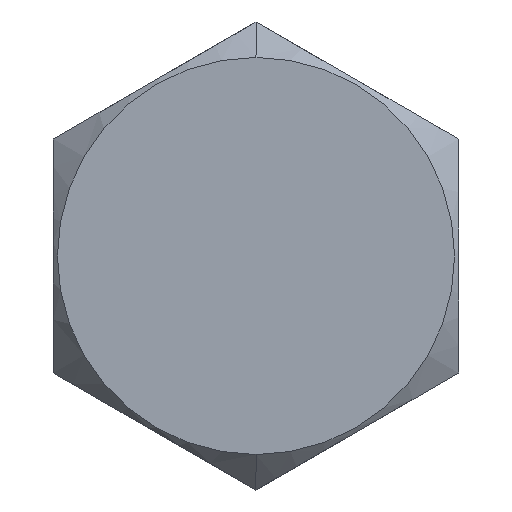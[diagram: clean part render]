
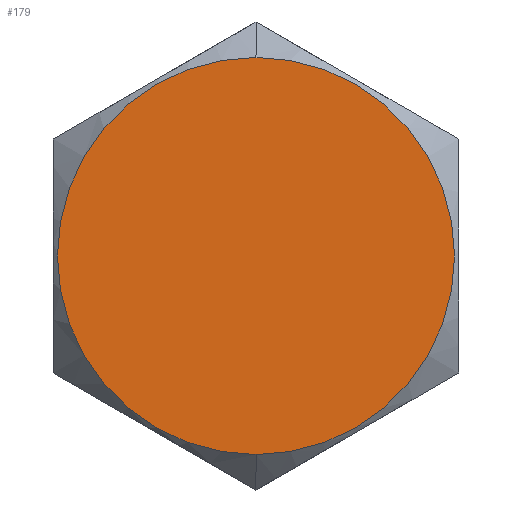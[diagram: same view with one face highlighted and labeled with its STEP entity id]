
A CAD part, left-side view. The second image highlights one B-rep face of the part: STEP entity #179.
In plain terms, the highlighted planar face has unit normal (-1, 0, 0).
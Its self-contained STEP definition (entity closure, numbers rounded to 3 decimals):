
#94 = CARTESIAN_POINT ( 'NONE',  ( 0., 0., 7.838 ) ) ;
#105 = EDGE_CURVE ( 'NONE', #436, #737, #773, .T. ) ;
#111 = CARTESIAN_POINT ( 'NONE',  ( 0., 0., 0. ) ) ;
#113 = EDGE_CURVE ( 'NONE', #737, #436, #758, .T. ) ;
#179 = ADVANCED_FACE ( 'NONE', ( #212 ), #768, .F. ) ;
#212 = FACE_OUTER_BOUND ( 'NONE', #803, .T. ) ;
#245 = CARTESIAN_POINT ( 'NONE',  ( 0., 0., 0. ) ) ;
#272 = DIRECTION ( 'NONE',  ( 1., 0., 0. ) ) ;
#345 = CARTESIAN_POINT ( 'NONE',  ( 0., 0., -7.838 ) ) ;
#358 = ORIENTED_EDGE ( 'NONE', *, *, #113, .F. ) ;
#367 = DIRECTION ( 'NONE',  ( 1., 0., 0. ) ) ;
#386 = DIRECTION ( 'NONE',  ( 0., 0., -1. ) ) ;
#436 = VERTEX_POINT ( 'NONE', #345 ) ;
#439 = DIRECTION ( 'NONE',  ( 0., 0., -1. ) ) ;
#473 = AXIS2_PLACEMENT_3D ( 'NONE', #245, #367, #439 ) ;
#486 = DIRECTION ( 'NONE',  ( 1., 0., 0. ) ) ;
#487 = ORIENTED_EDGE ( 'NONE', *, *, #105, .F. ) ;
#529 = AXIS2_PLACEMENT_3D ( 'NONE', #111, #486, #562 ) ;
#562 = DIRECTION ( 'NONE',  ( 0., 0., -1. ) ) ;
#579 = AXIS2_PLACEMENT_3D ( 'NONE', #781, #272, #386 ) ;
#737 = VERTEX_POINT ( 'NONE', #94 ) ;
#758 = CIRCLE ( 'NONE', #529, 7.838 ) ;
#768 = PLANE ( 'NONE',  #579 ) ;
#773 = CIRCLE ( 'NONE', #473, 7.838 ) ;
#781 = CARTESIAN_POINT ( 'NONE',  ( 0., 0., 0. ) ) ;
#803 = EDGE_LOOP ( 'NONE', ( #487, #358 ) ) ;
